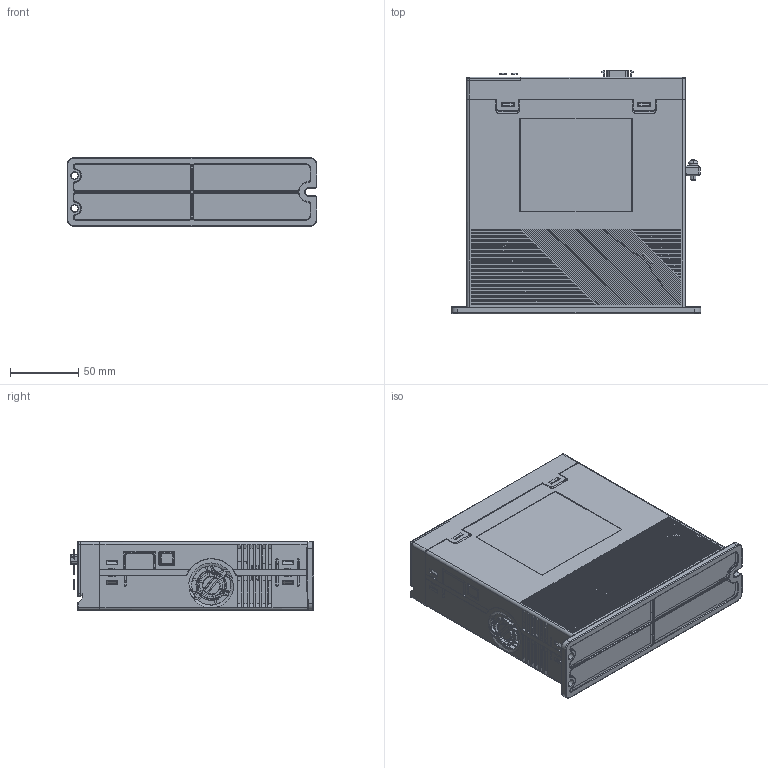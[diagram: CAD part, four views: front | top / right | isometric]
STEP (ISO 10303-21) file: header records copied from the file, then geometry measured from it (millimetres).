
FILE_DESCRIPTION((''),'2;1');
FILE_NAME('23CRN-02-00_B_750W_SW0002','2025-09-30T14:16:21',('wuyh130'),(''),'CREO PARAMETRIC BY PTC INC, 2021063','CREO PARAMETRIC BY PTC INC, 2021063','');
FILE_SCHEMA(('AUTOMOTIVE_DESIGN { 1 0 10303 214 1 1 1 1 }'));
Products named in the file (1): 23CRN-02-00_B_750W_SW0002
Bounding box: 183 x 178.2 x 50 mm (x, y, z)
Surface area: 273843.1 mm2 (no closed solid volume)
Topology: 0 solids, 420 shells, 2675 faces, 15368 edges, 12772 vertices
Faces by surface type: plane 1738, cylinder 623, bspline 123, torus 69, cone 63, extrusion 33, sphere 22, revolution 4
Entity records: 188621 total; most frequent: CARTESIAN_POINT 61003, DIRECTION 20439, ORIENTED_EDGE 19334, EDGE_CURVE 15360, VERTEX_POINT 12774, VECTOR 11020, LINE 10987, AXIS2_PLACEMENT_3D 4706
